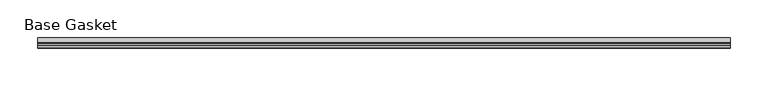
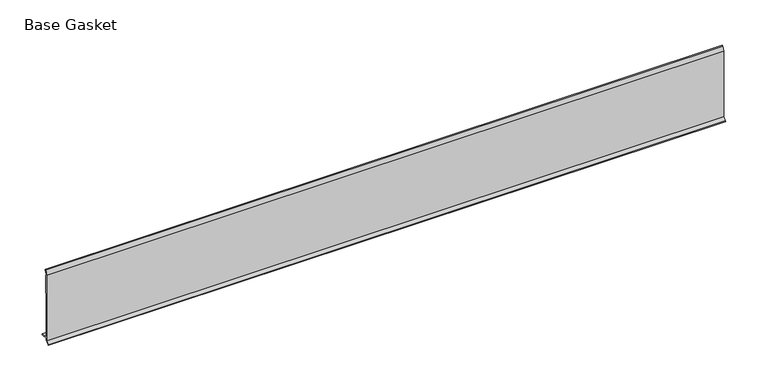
"""IFC4 building model written with IfcOpenShell, lengths in millimetres: furniture geometry, Gasket-Teknion-FHGB-AI_Healthcare-R2021 : Base Gasket."""

from ifc_helpers import new_model, si_unit, frame, origin, place, context, project, spatial, polyline, outline, extrude, source, transform, mapped, element, save


def base_gasket_13a42a1b(model_context):
    return source(origin(), model_context, "Body", "SweptSolid", [
        extrude(outline(polyline([(-3.7283812, 98.4568417), (-1.1891543, 104.587663), (-0.6755308, 105.2002997), (-0.6755308, 104.4162708), (-2.2043812, 98.4568417), (-2.2043812, 96.8693477), (-1.4106313, 96.8693477), (-1.4106313, 71.4693447), (-2.2043812, 71.4693447), (-2.2043812, 7.9398773), (6.2405171, 7.9398773), (6.2405171, 6.3818476), (-2.1334222, 6.3818476), (-2.2043812, 4.3498477), (-6.8281054, 0.3520979), (-7.8482342, 0.0), (-7.4222115, 0.6560174), (-3.7283812, 4.3498477), (-3.7283812, 98.4568417)])), frame((-1527.8982117, 0.0, 0.0), z_axis=(1.0, 0.0, 0.0), x_axis=(0.0, 1.0, 0.0)), (0.0, 0.0, 1.0), 920.75),
    ])


if __name__ == "__main__":
    model = new_model("IFC4")
    model_context = context("Model", 3, world=origin())
    ifc_project = project(units=[si_unit("LENGTHUNIT", "METRE", prefix="MILLI")], contexts=[model_context])
    site = spatial("IfcSite", under=ifc_project)
    building = spatial("IfcBuilding", under=site)
    placement = place(None, origin())
    base_gasket_shape = base_gasket_13a42a1b(model_context)
    element("IfcFurniture", 1, ObjectType="Gasket-Teknion-FHGB-AI_Healthcare-R2021 : Base Gasket", at=placement, inside=building, context=model_context, shape_type="MappedRepresentation", body=[
        mapped(base_gasket_shape, transform((0.0, 0.0, 0.0), x_axis=(1.0, 0.0, 0.0), y_axis=(0.0, 1.0, 0.0), z_axis=(0.0, 0.0, 1.0))),
    ])
    save(model, "model.ifc")
